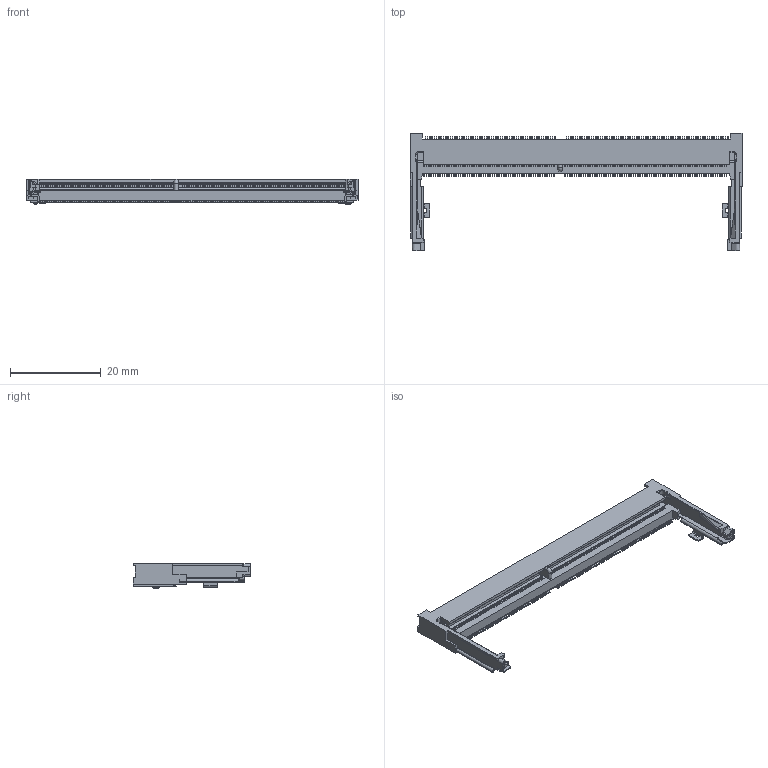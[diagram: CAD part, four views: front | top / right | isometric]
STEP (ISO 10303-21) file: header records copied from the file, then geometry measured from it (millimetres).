
FILE_DESCRIPTION(('FreeCAD Model'),'2;1');
FILE_NAME('C:/Users/James/Google Drive/MOD Drive/Development/Mechanical Design/3 Mech Components/COMPONENTS FOR FOOTPRINTS/TE - DDR4 SODIMM 260P 5.2H STD - 2309409-1/Footprint_2309409-1\TE___DDR4_SODIMM_260P_5_2H_STD___2309409_1_test004_cp.step', '2020-11-06T17:19:52',('kicad StepUp'),('ksu MCAD'), 'Open CASCADE STEP processor 7.3','FreeCAD','Unknown');
FILE_SCHEMA(('AUTOMOTIVE_DESIGN { 1 0 10303 214 1 1 1 1 }'));
Products named in the file (1): TE___DDR4_SODIMM_260P_5_2H_STD___2309409_1_test004_cp
Bounding box: 73 x 25.85 x 5.55 mm (x, y, z)
Volume: 2794.4 mm3; surface area: 5535.8 mm2
Topology: 4 solids, 4 shells, 4516 faces, 13118 edges, 8737 vertices
Faces by surface type: plane 2991, cylinder 1504, torus 10, cone 7, bspline 4
Entity records: 181160 total; most frequent: CARTESIAN_POINT 27238, ORIENTED_EDGE 26236, DIRECTION 25149, EDGE_CURVE 13118, LINE 10063, VECTOR 10063, VERTEX_POINT 8737, AXIS2_PLACEMENT_3D 7543
